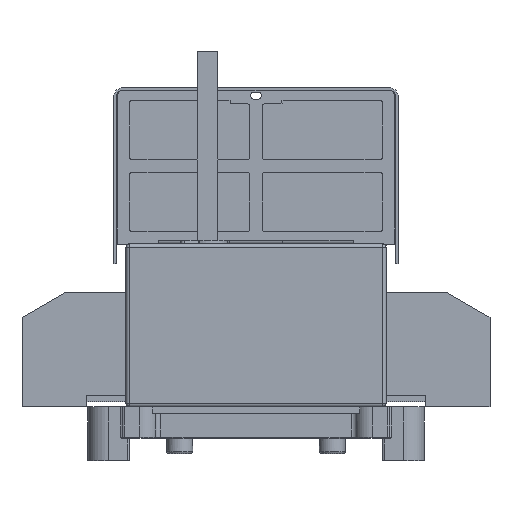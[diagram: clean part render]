
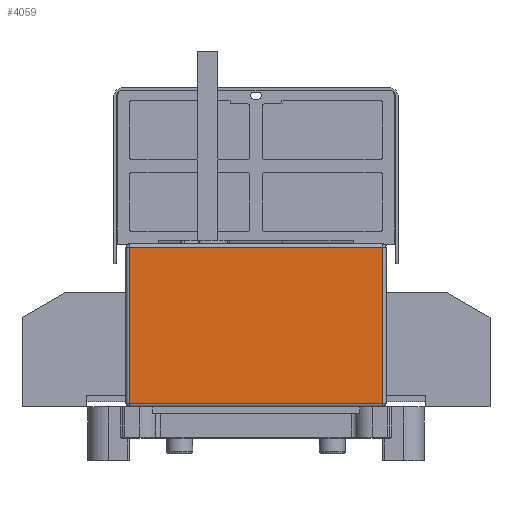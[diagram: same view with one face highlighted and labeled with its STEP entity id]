
A CAD part, left-side view. The second image highlights one B-rep face of the part: STEP entity #4059.
In plain terms, the highlighted planar face has unit normal (-1, 0, 0).
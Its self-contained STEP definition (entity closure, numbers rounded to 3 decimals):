
#4059=ADVANCED_FACE('',(#6646),#5123,.F.);
#5123=PLANE('',#34097);
#6646=FACE_OUTER_BOUND('',#8589,.T.);
#8589=EDGE_LOOP('',(#16512,#16513,#16514,#16515));
#16512=ORIENTED_EDGE('',*,*,#24941,.T.);
#16513=ORIENTED_EDGE('',*,*,#24923,.T.);
#16514=ORIENTED_EDGE('',*,*,#24934,.T.);
#16515=ORIENTED_EDGE('',*,*,#24912,.T.);
#20581=VERTEX_POINT('',#54875);
#20585=VERTEX_POINT('',#54886);
#20590=VERTEX_POINT('',#54903);
#20591=VERTEX_POINT('',#54907);
#24912=EDGE_CURVE('',#20585,#20581,#28122,.T.);
#24923=EDGE_CURVE('',#20591,#20590,#28127,.T.);
#24934=EDGE_CURVE('',#20590,#20585,#28130,.T.);
#24941=EDGE_CURVE('',#20581,#20591,#28137,.T.);
#28122=LINE('',#54889,#31274);
#28127=LINE('',#54910,#31279);
#28130=LINE('',#54933,#31282);
#28137=LINE('',#54943,#31289);
#31274=VECTOR('',#42543,1.);
#31279=VECTOR('',#42568,1.);
#31282=VECTOR('',#42597,1.);
#31289=VECTOR('',#42610,1.);
#34097=AXIS2_PLACEMENT_3D('',#54946,#42615,#42616);
#42543=DIRECTION('',(0.,1.,0.));
#42568=DIRECTION('',(0.,-1.,0.));
#42597=DIRECTION('',(0.,0.,1.));
#42610=DIRECTION('',(0.,0.,-1.));
#42615=DIRECTION('',(1.,0.,0.));
#42616=DIRECTION('',(0.,1.,0.));
#54875=CARTESIAN_POINT('',(-150.,73.,92.));
#54886=CARTESIAN_POINT('',(-150.,-73.,92.));
#54889=CARTESIAN_POINT('',(-150.,73.,92.));
#54903=CARTESIAN_POINT('',(-150.,-73.,2.));
#54907=CARTESIAN_POINT('',(-150.,73.,2.));
#54910=CARTESIAN_POINT('',(-150.,75.,2.));
#54933=CARTESIAN_POINT('',(-150.,-73.,94.));
#54943=CARTESIAN_POINT('',(-150.,73.,94.));
#54946=CARTESIAN_POINT('',(-150.,75.,94.));
